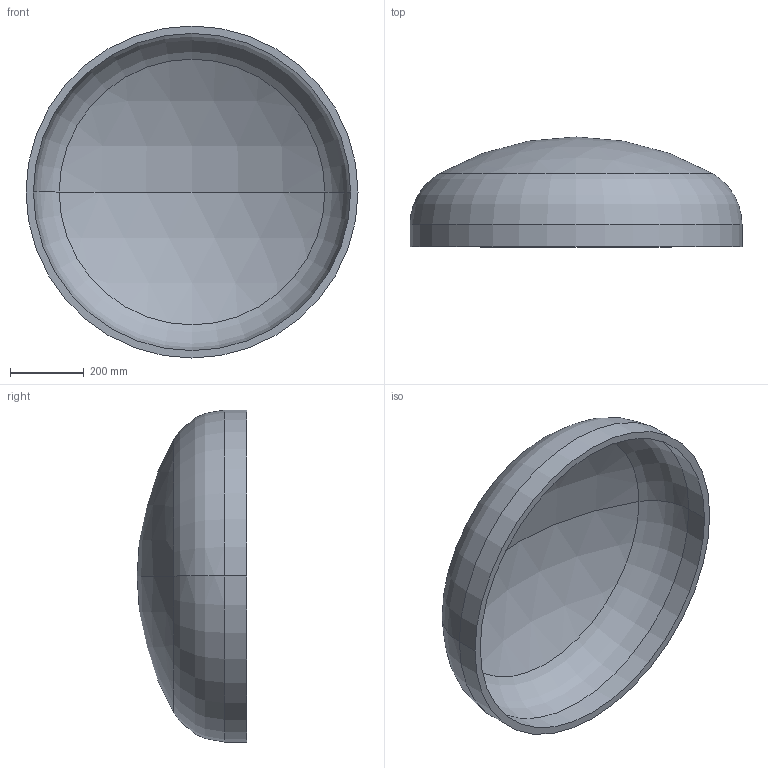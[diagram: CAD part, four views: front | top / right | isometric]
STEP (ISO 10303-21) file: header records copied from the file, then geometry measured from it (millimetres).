
FILE_DESCRIPTION (( 'STEP AP203' ), '1' );
FILE_NAME ('DIN 28013 Korbbogenform_-_Boden DIN 28013 - 900 x 60 - I - s=20.step', '2016-07-01T08:27:29', ( '' ), ( '' ), 'SwSTEP 2.0', 'SolidWorks 2013', '' );
FILE_SCHEMA (( 'CONFIG_CONTROL_DESIGN' ));
Length unit declared in the file: millimetre
Products named in the file (1): DIN 28013 Korbbogenform_-_Boden DIN 28013 - 900 x 60 - I - s=20
Bounding box: 900 x 297.71 x 900 mm (x, y, z)
Volume: 20466470.3 mm3; surface area: 2102776.2 mm2
Topology: 1 solids, 1 shells, 13 faces, 24 edges, 14 vertices
Faces by surface type: torus 4, cylinder 4, sphere 4, plane 1
Entity records: 407 total; most frequent: DIRECTION 72, CARTESIAN_POINT 52, ORIENTED_EDGE 48, AXIS2_PLACEMENT_3D 34, EDGE_CURVE 24, CIRCLE 20, VERTEX_POINT 14, EDGE_LOOP 14
